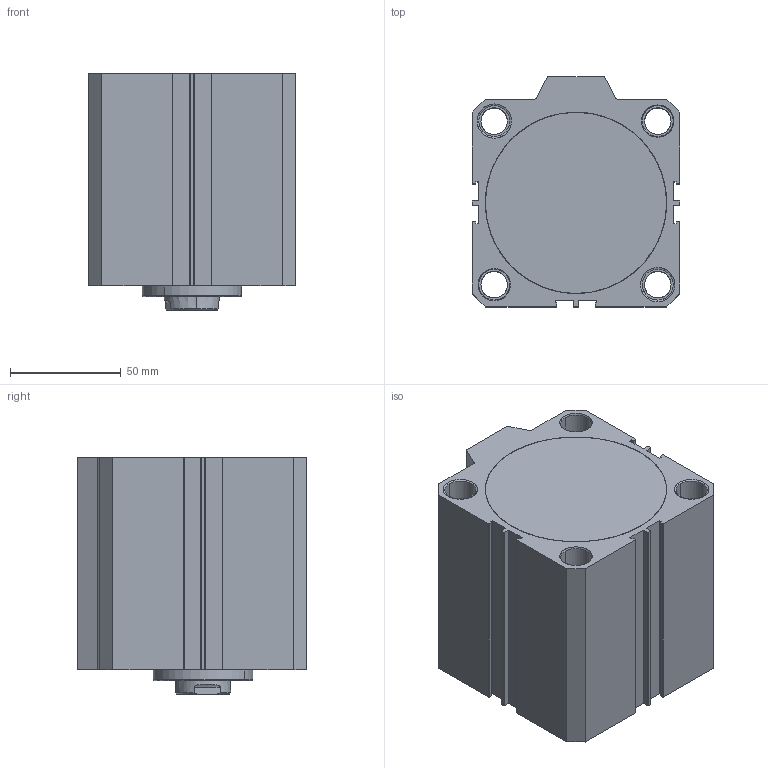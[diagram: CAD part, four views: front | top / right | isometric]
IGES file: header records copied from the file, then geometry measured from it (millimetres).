
Start section: SolidWorks IGES file using analytic representation for surfaces
Global section: file name: D:\ARICA 3D 禽Z軲LER\3D IGES\SDA-S\SDA-S 80\SDA-S-80X45CYLINDER.IGS,1; native system: 5HSolidWorks 2013; preprocessor: SolidWorks 2013; author: user; date: 150805.135358; units: millimetre
Bounding box: 94 x 104 x 107 mm (x, y, z)
Surface area: 144986.7 mm2 (no closed solid volume)
Topology: 0 solids, 0 shells, 241 faces, 5393 edges, 5393 vertices
Faces by surface type: revolution 147, bspline 94
